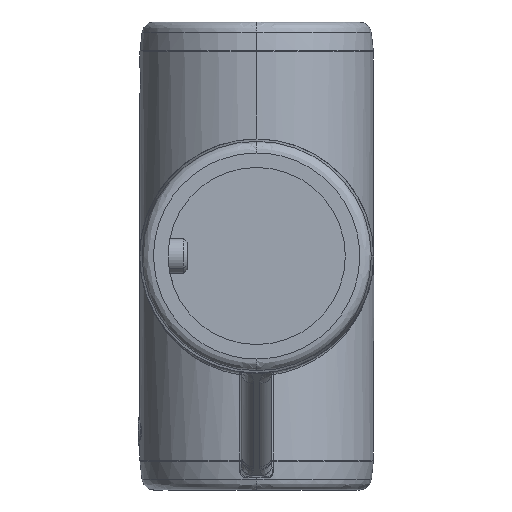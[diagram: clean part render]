
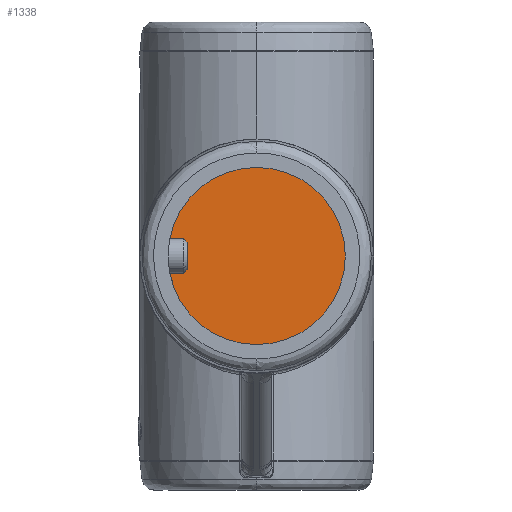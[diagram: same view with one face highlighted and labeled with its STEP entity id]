
A CAD part, left-side view. The second image highlights one B-rep face of the part: STEP entity #1338.
In plain terms, the highlighted planar face has unit normal (-1, 0, 0).
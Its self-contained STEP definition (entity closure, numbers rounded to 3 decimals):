
#348 = EDGE_LOOP ( 'NONE', ( #4413, #1387 ) ) ;
#1115 = AXIS2_PLACEMENT_3D ( 'NONE', #1202, #2163, #5640 ) ;
#1160 = VERTEX_POINT ( 'NONE', #6084 ) ;
#1202 = CARTESIAN_POINT ( 'NONE',  ( 25., 0., 0. ) ) ;
#1338 = ADVANCED_FACE ( 'NONE', ( #6124 ), #4680, .F. ) ;
#1387 = ORIENTED_EDGE ( 'NONE', *, *, #3968, .T. ) ;
#1699 = CIRCLE ( 'NONE', #5685, 15.15 ) ;
#2163 = DIRECTION ( 'NONE',  ( 1., 0., 0. ) ) ;
#2694 = CARTESIAN_POINT ( 'NONE',  ( 25., 0., -15.15 ) ) ;
#2727 = AXIS2_PLACEMENT_3D ( 'NONE', #4133, #6197, #3716 ) ;
#2970 = EDGE_CURVE ( 'NONE', #4219, #1160, #5906, .T. ) ;
#3475 = DIRECTION ( 'NONE',  ( 0., 0., -1. ) ) ;
#3716 = DIRECTION ( 'NONE',  ( 0., 0., -1. ) ) ;
#3968 = EDGE_CURVE ( 'NONE', #1160, #4219, #1699, .T. ) ;
#4133 = CARTESIAN_POINT ( 'NONE',  ( 25., 0., 0. ) ) ;
#4219 = VERTEX_POINT ( 'NONE', #2694 ) ;
#4413 = ORIENTED_EDGE ( 'NONE', *, *, #2970, .T. ) ;
#4680 = PLANE ( 'NONE',  #1115 ) ;
#4949 = CARTESIAN_POINT ( 'NONE',  ( 25., 0., 0. ) ) ;
#5453 = DIRECTION ( 'NONE',  ( -1., 0., 0. ) ) ;
#5640 = DIRECTION ( 'NONE',  ( 0., 0., -1. ) ) ;
#5685 = AXIS2_PLACEMENT_3D ( 'NONE', #4949, #5453, #3475 ) ;
#5906 = CIRCLE ( 'NONE', #2727, 15.15 ) ;
#6084 = CARTESIAN_POINT ( 'NONE',  ( 25., 0., 15.15 ) ) ;
#6124 = FACE_OUTER_BOUND ( 'NONE', #348, .T. ) ;
#6197 = DIRECTION ( 'NONE',  ( -1., 0., 0. ) ) ;
